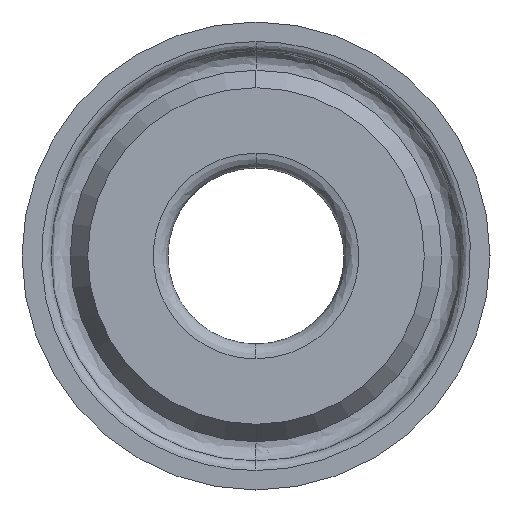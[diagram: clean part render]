
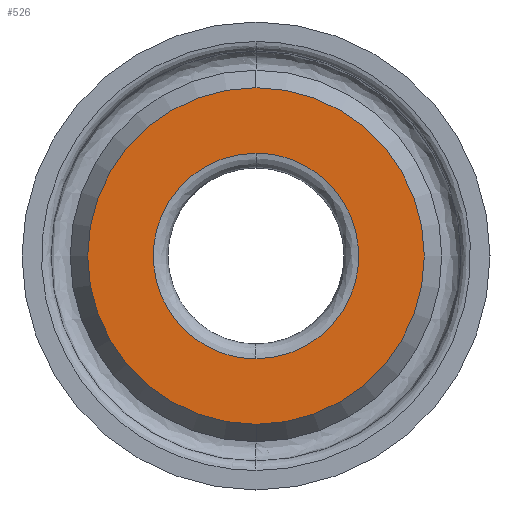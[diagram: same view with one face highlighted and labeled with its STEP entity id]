
A CAD part, left-side view. The second image highlights one B-rep face of the part: STEP entity #526.
In plain terms, the highlighted planar face has unit normal (-1, 0, 0).
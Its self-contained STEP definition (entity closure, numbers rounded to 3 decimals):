
#11 = CARTESIAN_POINT ( 'NONE',  ( 0.787, 0., 8.987 ) ) ;
#47 = CARTESIAN_POINT ( 'NONE',  ( 0.787, 0., -5.486 ) ) ;
#59 = CARTESIAN_POINT ( 'NONE',  ( 0.787, -10.973, -5.486 ) ) ;
#73 = EDGE_CURVE ( 'NONE', #273, #562, #501, .T. ) ;
#78 = DIRECTION ( 'NONE',  ( 1., 0., 0. ) ) ;
#83 = CARTESIAN_POINT ( 'NONE',  ( 0.787, -10.973, 5.486 ) ) ;
#85 = EDGE_CURVE ( 'NONE', #562, #273, #424, .T. ) ;
#86 = CARTESIAN_POINT ( 'NONE',  ( 0.787, 5.486, 0. ) ) ;
#98 = CARTESIAN_POINT ( 'NONE',  ( 0.787, 0., 5.486 ) ) ;
#114 = CARTESIAN_POINT ( 'NONE',  ( 0.787, 0., 5.486 ) ) ;
#132 = CARTESIAN_POINT ( 'NONE',  ( 0.787, 10.973, 5.486 ) ) ;
#134 = CARTESIAN_POINT ( 'NONE',  ( 0.787, 0., 0. ) ) ;
#137 = DIRECTION ( 'NONE',  ( 0., 0., -1. ) ) ;
#140 = CARTESIAN_POINT ( 'NONE',  ( 0.787, 10.973, -5.486 ) ) ;
#143 = PLANE ( 'NONE',  #508 ) ;
#145 = CARTESIAN_POINT ( 'NONE',  ( 0.787, 0., -5.486 ) ) ;
#159 = EDGE_CURVE ( 'NONE', #640, #627, #204, .T. ) ;
#168 = ORIENTED_EDGE ( 'NONE', *, *, #85, .F. ) ;
#204 = CIRCLE ( 'NONE', #597, 8.987 ) ;
#232 = EDGE_LOOP ( 'NONE', ( #601, #168 ) ) ;
#235 = CARTESIAN_POINT ( 'NONE',  ( 0.787, 0., 0. ) ) ;
#245 = DIRECTION ( 'NONE',  ( 1., 0., 0. ) ) ;
#250 = DIRECTION ( 'NONE',  ( 0., 0., -1. ) ) ;
#273 = VERTEX_POINT ( 'NONE', #462 ) ;
#369 = CARTESIAN_POINT ( 'NONE',  ( 0.787, 0., -8.987 ) ) ;
#385 = DIRECTION ( 'NONE',  ( 1., 0., 0. ) ) ;
#424 =( BOUNDED_CURVE ( )  B_SPLINE_CURVE ( 3, ( #114, #132, #140, #145 ),
 .UNSPECIFIED., .F., .F. ) 
 B_SPLINE_CURVE_WITH_KNOTS ( ( 4, 4 ),
 ( 0., 1. ),
 .UNSPECIFIED. ) 
 CURVE ( )  GEOMETRIC_REPRESENTATION_ITEM ( )  RATIONAL_B_SPLINE_CURVE ( ( 1., 0.333, 0.333, 1. ) ) 
 REPRESENTATION_ITEM ( '' )  );
#435 = CARTESIAN_POINT ( 'NONE',  ( 0.787, 0., 5.486 ) ) ;
#462 = CARTESIAN_POINT ( 'NONE',  ( 0.787, 0., -5.486 ) ) ;
#467 = AXIS2_PLACEMENT_3D ( 'NONE', #134, #78, #137 ) ;
#501 =( BOUNDED_CURVE ( )  B_SPLINE_CURVE ( 3, ( #47, #59, #83, #98 ),
 .UNSPECIFIED., .F., .F. ) 
 B_SPLINE_CURVE_WITH_KNOTS ( ( 4, 4 ),
 ( 0., 1. ),
 .UNSPECIFIED. ) 
 CURVE ( )  GEOMETRIC_REPRESENTATION_ITEM ( )  RATIONAL_B_SPLINE_CURVE ( ( 1., 0.333, 0.333, 1. ) ) 
 REPRESENTATION_ITEM ( '' )  );
#508 = AXIS2_PLACEMENT_3D ( 'NONE', #86, #385, #529 ) ;
#526 = ADVANCED_FACE ( 'NONE', ( #550, #599 ), #143, .F. ) ;
#529 = DIRECTION ( 'NONE',  ( 0., 0., -1. ) ) ;
#531 = CIRCLE ( 'NONE', #467, 8.987 ) ;
#535 = EDGE_LOOP ( 'NONE', ( #566, #741 ) ) ;
#550 = FACE_OUTER_BOUND ( 'NONE', #535, .T. ) ;
#562 = VERTEX_POINT ( 'NONE', #435 ) ;
#566 = ORIENTED_EDGE ( 'NONE', *, *, #606, .F. ) ;
#597 = AXIS2_PLACEMENT_3D ( 'NONE', #235, #245, #250 ) ;
#599 = FACE_BOUND ( 'NONE', #232, .T. ) ;
#601 = ORIENTED_EDGE ( 'NONE', *, *, #73, .F. ) ;
#606 = EDGE_CURVE ( 'NONE', #627, #640, #531, .T. ) ;
#627 = VERTEX_POINT ( 'NONE', #369 ) ;
#640 = VERTEX_POINT ( 'NONE', #11 ) ;
#741 = ORIENTED_EDGE ( 'NONE', *, *, #159, .F. ) ;
